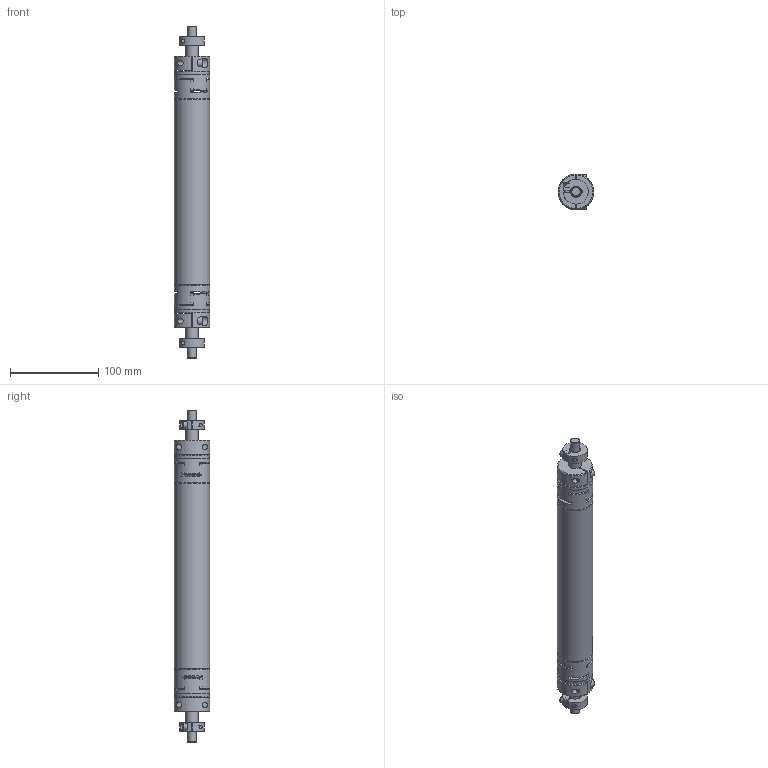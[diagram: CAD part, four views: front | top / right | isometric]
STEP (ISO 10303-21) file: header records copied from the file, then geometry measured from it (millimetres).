
FILE_DESCRIPTION(/* description */ ('Dummy'),/* implementation_level */ '2;1');
FILE_NAME(/* name */ 'D:\InventorWorkspace2019\CAD\_lokale konstruktionen\VerbWelleHLR070\0232.910-0400.stp',/* time_stamp */ '2020-04-14T16:10:18+02:00',/* author */ ('AR64535'),/* organization */ (''),/* preprocessor_version */ 'ST-DEVELOPER v17.2',/* originating_system */ 'Autodesk Inventor 2019',/* authorisation */ '');
FILE_SCHEMA (('AUTOMOTIVE_DESIGN { 1 0 10303 214 3 1 1 }'));
Length unit declared in the file: millimetre
Products named in the file (8): 0241910-XXXX_HLR070; 0241.910-XXXX; ROTEX GS19 ZR3_Klemmnabe D14; ROTEX GS19 ZR3_Rohr; 0232.007-02; 0231.029; 0231.012-01; 130-302319
Assembly tree (11 placements, depth 3):
  0241910-XXXX_HLR070
    0241.910-XXXX
      ROTEX GS19 ZR3_Klemmnabe D14  x2
      ROTEX GS19 ZR3_Rohr
    0232.007-02
      0231.029  x2
      0231.012-01  x2
      130-302319  x2
Bounding box: 40 x 40 x 376 mm (x, y, z)
Volume: 185843.8 mm3; surface area: 96244.3 mm2
Topology: 9 solids, 9 shells, 430 faces, 1260 edges, 858 vertices
Faces by surface type: cylinder 178, plane 156, cone 92, torus 4
Full cylindrical faces by diameter (mm): 3 x12, 4.134 x2, 5 x2, 5.3 x2, 6 x4, 6.6 x8, 8.5 x2, 10 x6, 14 x4, 18 x4, 22 x2, 34 x1, 39.4 x2, 40 x3
Entity records: 8244 total; most frequent: CARTESIAN_POINT 2097, ORIENTED_EDGE 1268, DIRECTION 1244, EDGE_CURVE 634, AXIS2_PLACEMENT_3D 516, VERTEX_POINT 432, CIRCLE 279, EDGE_LOOP 256
